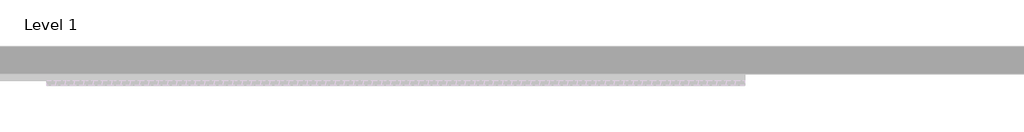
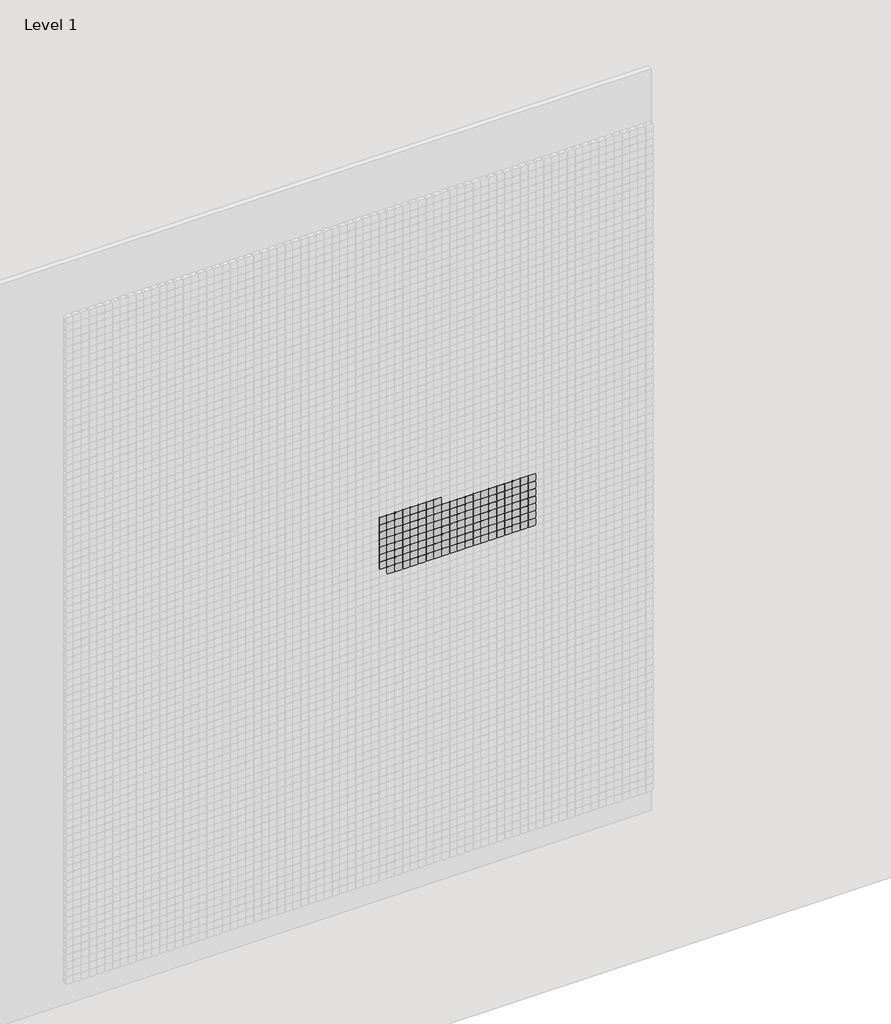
# One storey, part 55 of 71: 147 proxies.
"""IFC4 building model written with IfcOpenShell, lengths in millimetres."""

from ifc_helpers import new_model, si_unit, origin, place, context, project, spatial, transform, mapped, element, save
from components import generic_models_afde289c

model = new_model("IFC4")

# Units and contexts
model_context = context("Model", 3, world=origin())
ifc_project = project(units=[si_unit("LENGTHUNIT", "METRE", prefix="MILLI")], contexts=[model_context])

# Site, building, storey
site = spatial("IfcSite", under=ifc_project)
building = spatial("IfcBuilding", under=site)
storey = spatial("IfcBuildingStorey", under=building, Name="Level 1", Elevation=0.0)

# Proxies
placement = place(None, origin())
generic_models_shape = generic_models_afde289c(model_context)
element("IfcBuildingElementProxy", 1, Name="Pixel_M : Pixel_M", ObjectType="Pixel_M : Pixel_M", at=placement, inside=storey, context=model_context, shape_type="MappedRepresentation", body=[
    mapped(generic_models_shape, transform((8362.4280941, -75.0, 3566.3566215), x_axis=(1.0, 0.0, 0.0), y_axis=(0.0, 0.0, 1.0), z_axis=(0.0, -1.0, 0.0))),
])
element("IfcBuildingElementProxy", 2, Name="Pixel_M : Pixel_M", ObjectType="Pixel_M : Pixel_M", at=placement, inside=storey, context=model_context, shape_type="MappedRepresentation", body=[
    mapped(generic_models_shape, transform((8312.4280941, -75.0, 3566.3566215), x_axis=(1.0, 0.0, 0.0), y_axis=(0.0, 0.0, 1.0), z_axis=(0.0, -1.0, 0.0))),
])
element("IfcBuildingElementProxy", 3, Name="Pixel_M : Pixel_M", ObjectType="Pixel_M : Pixel_M", at=placement, inside=storey, context=model_context, shape_type="MappedRepresentation", body=[
    mapped(generic_models_shape, transform((8262.4280941, -75.0, 3566.3566215), x_axis=(1.0, 0.0, 0.0), y_axis=(0.0, 0.0, 1.0), z_axis=(0.0, -1.0, 0.0))),
])
element("IfcBuildingElementProxy", 4, Name="Pixel_M : Pixel_M", ObjectType="Pixel_M : Pixel_M", at=placement, inside=storey, context=model_context, shape_type="MappedRepresentation", body=[
    mapped(generic_models_shape, transform((8212.4280941, -75.0, 3566.3566215), x_axis=(1.0, 0.0, 0.0), y_axis=(0.0, 0.0, 1.0), z_axis=(0.0, -1.0, 0.0))),
])
element("IfcBuildingElementProxy", 5, Name="Pixel_M : Pixel_M", ObjectType="Pixel_M : Pixel_M", at=placement, inside=storey, context=model_context, shape_type="MappedRepresentation", body=[
    mapped(generic_models_shape, transform((8162.4280941, -75.0, 3566.3566215), x_axis=(1.0, 0.0, 0.0), y_axis=(0.0, 0.0, 1.0), z_axis=(0.0, -1.0, 0.0))),
])
element("IfcBuildingElementProxy", 6, Name="Pixel_M : Pixel_M", ObjectType="Pixel_M : Pixel_M", at=placement, inside=storey, context=model_context, shape_type="MappedRepresentation", body=[
    mapped(generic_models_shape, transform((8112.4280941, -75.0, 3566.3566215), x_axis=(1.0, 0.0, 0.0), y_axis=(0.0, 0.0, 1.0), z_axis=(0.0, -1.0, 0.0))),
])
element("IfcBuildingElementProxy", 7, Name="Pixel_M : Pixel_M", ObjectType="Pixel_M : Pixel_M", at=placement, inside=storey, context=model_context, shape_type="MappedRepresentation", body=[
    mapped(generic_models_shape, transform((8062.4280941, -75.0, 3566.3566215), x_axis=(1.0, 0.0, 0.0), y_axis=(0.0, 0.0, 1.0), z_axis=(0.0, -1.0, 0.0))),
])
element("IfcBuildingElementProxy", 8, Name="Pixel_M : Pixel_M", ObjectType="Pixel_M : Pixel_M", at=placement, inside=storey, context=model_context, shape_type="MappedRepresentation", body=[
    mapped(generic_models_shape, transform((8012.4280941, -75.0, 3566.3566215), x_axis=(1.0, 0.0, 0.0), y_axis=(0.0, 0.0, 1.0), z_axis=(0.0, -1.0, 0.0))),
])
element("IfcBuildingElementProxy", 9, Name="Pixel_M : Pixel_M", ObjectType="Pixel_M : Pixel_M", at=placement, inside=storey, context=model_context, shape_type="MappedRepresentation", body=[
    mapped(generic_models_shape, transform((8962.4280941, -75.0, 3516.3566215), x_axis=(1.0, 0.0, 0.0), y_axis=(0.0, 0.0, 1.0), z_axis=(0.0, -1.0, 0.0))),
])
element("IfcBuildingElementProxy", 10, Name="Pixel_M : Pixel_M", ObjectType="Pixel_M : Pixel_M", at=placement, inside=storey, context=model_context, shape_type="MappedRepresentation", body=[
    mapped(generic_models_shape, transform((8912.4280941, -75.0, 3516.3566215), x_axis=(1.0, 0.0, 0.0), y_axis=(0.0, 0.0, 1.0), z_axis=(0.0, -1.0, 0.0))),
])
element("IfcBuildingElementProxy", 11, Name="Pixel_M : Pixel_M", ObjectType="Pixel_M : Pixel_M", at=placement, inside=storey, context=model_context, shape_type="MappedRepresentation", body=[
    mapped(generic_models_shape, transform((8862.4280941, -75.0, 3516.3566215), x_axis=(1.0, 0.0, 0.0), y_axis=(0.0, 0.0, 1.0), z_axis=(0.0, -1.0, 0.0))),
])
element("IfcBuildingElementProxy", 12, Name="Pixel_M : Pixel_M", ObjectType="Pixel_M : Pixel_M", at=placement, inside=storey, context=model_context, shape_type="MappedRepresentation", body=[
    mapped(generic_models_shape, transform((8812.4280941, -75.0, 3516.3566215), x_axis=(1.0, 0.0, 0.0), y_axis=(0.0, 0.0, 1.0), z_axis=(0.0, -1.0, 0.0))),
])
element("IfcBuildingElementProxy", 13, Name="Pixel_M : Pixel_M", ObjectType="Pixel_M : Pixel_M", at=placement, inside=storey, context=model_context, shape_type="MappedRepresentation", body=[
    mapped(generic_models_shape, transform((8762.4280941, -75.0, 3516.3566215), x_axis=(1.0, 0.0, 0.0), y_axis=(0.0, 0.0, 1.0), z_axis=(0.0, -1.0, 0.0))),
])
element("IfcBuildingElementProxy", 14, Name="Pixel_M : Pixel_M", ObjectType="Pixel_M : Pixel_M", at=placement, inside=storey, context=model_context, shape_type="MappedRepresentation", body=[
    mapped(generic_models_shape, transform((8712.4280941, -75.0, 3516.3566215), x_axis=(1.0, 0.0, 0.0), y_axis=(0.0, 0.0, 1.0), z_axis=(0.0, -1.0, 0.0))),
])
element("IfcBuildingElementProxy", 15, Name="Pixel_M : Pixel_M", ObjectType="Pixel_M : Pixel_M", at=placement, inside=storey, context=model_context, shape_type="MappedRepresentation", body=[
    mapped(generic_models_shape, transform((8662.4280941, -75.0, 3516.3566215), x_axis=(1.0, 0.0, 0.0), y_axis=(0.0, 0.0, 1.0), z_axis=(0.0, -1.0, 0.0))),
])
element("IfcBuildingElementProxy", 16, Name="Pixel_M : Pixel_M", ObjectType="Pixel_M : Pixel_M", at=placement, inside=storey, context=model_context, shape_type="MappedRepresentation", body=[
    mapped(generic_models_shape, transform((8612.4280941, -75.0, 3516.3566215), x_axis=(1.0, 0.0, 0.0), y_axis=(0.0, 0.0, 1.0), z_axis=(0.0, -1.0, 0.0))),
])
element("IfcBuildingElementProxy", 17, Name="Pixel_M : Pixel_M", ObjectType="Pixel_M : Pixel_M", at=placement, inside=storey, context=model_context, shape_type="MappedRepresentation", body=[
    mapped(generic_models_shape, transform((8562.4280941, -75.0, 3516.3566215), x_axis=(1.0, 0.0, 0.0), y_axis=(0.0, 0.0, 1.0), z_axis=(0.0, -1.0, 0.0))),
])
element("IfcBuildingElementProxy", 18, Name="Pixel_M : Pixel_M", ObjectType="Pixel_M : Pixel_M", at=placement, inside=storey, context=model_context, shape_type="MappedRepresentation", body=[
    mapped(generic_models_shape, transform((8512.4280941, -75.0, 3516.3566215), x_axis=(1.0, 0.0, 0.0), y_axis=(0.0, 0.0, 1.0), z_axis=(0.0, -1.0, 0.0))),
])
element("IfcBuildingElementProxy", 19, Name="Pixel_M : Pixel_M", ObjectType="Pixel_M : Pixel_M", at=placement, inside=storey, context=model_context, shape_type="MappedRepresentation", body=[
    mapped(generic_models_shape, transform((8462.4280941, -75.0, 3516.3566215), x_axis=(1.0, 0.0, 0.0), y_axis=(0.0, 0.0, 1.0), z_axis=(0.0, -1.0, 0.0))),
])
element("IfcBuildingElementProxy", 20, Name="Pixel_M : Pixel_M", ObjectType="Pixel_M : Pixel_M", at=placement, inside=storey, context=model_context, shape_type="MappedRepresentation", body=[
    mapped(generic_models_shape, transform((8412.4280941, -75.0, 3516.3566215), x_axis=(1.0, 0.0, 0.0), y_axis=(0.0, 0.0, 1.0), z_axis=(0.0, -1.0, 0.0))),
])
element("IfcBuildingElementProxy", 21, Name="Pixel_M : Pixel_M", ObjectType="Pixel_M : Pixel_M", at=placement, inside=storey, context=model_context, shape_type="MappedRepresentation", body=[
    mapped(generic_models_shape, transform((8362.4280941, -75.0, 3516.3566215), x_axis=(1.0, 0.0, 0.0), y_axis=(0.0, 0.0, 1.0), z_axis=(0.0, -1.0, 0.0))),
])
element("IfcBuildingElementProxy", 22, Name="Pixel_M : Pixel_M", ObjectType="Pixel_M : Pixel_M", at=placement, inside=storey, context=model_context, shape_type="MappedRepresentation", body=[
    mapped(generic_models_shape, transform((8312.4280941, -75.0, 3516.3566215), x_axis=(1.0, 0.0, 0.0), y_axis=(0.0, 0.0, 1.0), z_axis=(0.0, -1.0, 0.0))),
])
element("IfcBuildingElementProxy", 23, Name="Pixel_M : Pixel_M", ObjectType="Pixel_M : Pixel_M", at=placement, inside=storey, context=model_context, shape_type="MappedRepresentation", body=[
    mapped(generic_models_shape, transform((8262.4280941, -75.0, 3516.3566215), x_axis=(1.0, 0.0, 0.0), y_axis=(0.0, 0.0, 1.0), z_axis=(0.0, -1.0, 0.0))),
])
element("IfcBuildingElementProxy", 24, Name="Pixel_M : Pixel_M", ObjectType="Pixel_M : Pixel_M", at=placement, inside=storey, context=model_context, shape_type="MappedRepresentation", body=[
    mapped(generic_models_shape, transform((8212.4280941, -75.0, 3516.3566215), x_axis=(1.0, 0.0, 0.0), y_axis=(0.0, 0.0, 1.0), z_axis=(0.0, -1.0, 0.0))),
])
element("IfcBuildingElementProxy", 25, Name="Pixel_M : Pixel_M", ObjectType="Pixel_M : Pixel_M", at=placement, inside=storey, context=model_context, shape_type="MappedRepresentation", body=[
    mapped(generic_models_shape, transform((8162.4280941, -75.0, 3516.3566215), x_axis=(1.0, 0.0, 0.0), y_axis=(0.0, 0.0, 1.0), z_axis=(0.0, -1.0, 0.0))),
])
element("IfcBuildingElementProxy", 26, Name="Pixel_M : Pixel_M", ObjectType="Pixel_M : Pixel_M", at=placement, inside=storey, context=model_context, shape_type="MappedRepresentation", body=[
    mapped(generic_models_shape, transform((8112.4280941, -75.0, 3516.3566215), x_axis=(1.0, 0.0, 0.0), y_axis=(0.0, 0.0, 1.0), z_axis=(0.0, -1.0, 0.0))),
])
element("IfcBuildingElementProxy", 27, Name="Pixel_M : Pixel_M", ObjectType="Pixel_M : Pixel_M", at=placement, inside=storey, context=model_context, shape_type="MappedRepresentation", body=[
    mapped(generic_models_shape, transform((8062.4280941, -75.0, 3516.3566215), x_axis=(1.0, 0.0, 0.0), y_axis=(0.0, 0.0, 1.0), z_axis=(0.0, -1.0, 0.0))),
])
element("IfcBuildingElementProxy", 28, Name="Pixel_M : Pixel_M", ObjectType="Pixel_M : Pixel_M", at=placement, inside=storey, context=model_context, shape_type="MappedRepresentation", body=[
    mapped(generic_models_shape, transform((8012.4280941, -75.0, 3516.3566215), x_axis=(1.0, 0.0, 0.0), y_axis=(0.0, 0.0, 1.0), z_axis=(0.0, -1.0, 0.0))),
])
element("IfcBuildingElementProxy", 29, Name="Pixel_M : Pixel_M", ObjectType="Pixel_M : Pixel_M", at=placement, inside=storey, context=model_context, shape_type="MappedRepresentation", body=[
    mapped(generic_models_shape, transform((8962.4280941, -75.0, 3466.3566215), x_axis=(1.0, 0.0, 0.0), y_axis=(0.0, 0.0, 1.0), z_axis=(0.0, -1.0, 0.0))),
])
element("IfcBuildingElementProxy", 30, Name="Pixel_M : Pixel_M", ObjectType="Pixel_M : Pixel_M", at=placement, inside=storey, context=model_context, shape_type="MappedRepresentation", body=[
    mapped(generic_models_shape, transform((8912.4280941, -75.0, 3466.3566215), x_axis=(1.0, 0.0, 0.0), y_axis=(0.0, 0.0, 1.0), z_axis=(0.0, -1.0, 0.0))),
])
element("IfcBuildingElementProxy", 31, Name="Pixel_M : Pixel_M", ObjectType="Pixel_M : Pixel_M", at=placement, inside=storey, context=model_context, shape_type="MappedRepresentation", body=[
    mapped(generic_models_shape, transform((8862.4280941, -75.0, 3466.3566215), x_axis=(1.0, 0.0, 0.0), y_axis=(0.0, 0.0, 1.0), z_axis=(0.0, -1.0, 0.0))),
])
element("IfcBuildingElementProxy", 32, Name="Pixel_M : Pixel_M", ObjectType="Pixel_M : Pixel_M", at=placement, inside=storey, context=model_context, shape_type="MappedRepresentation", body=[
    mapped(generic_models_shape, transform((8812.4280941, -75.0, 3466.3566215), x_axis=(1.0, 0.0, 0.0), y_axis=(0.0, 0.0, 1.0), z_axis=(0.0, -1.0, 0.0))),
])
element("IfcBuildingElementProxy", 33, Name="Pixel_M : Pixel_M", ObjectType="Pixel_M : Pixel_M", at=placement, inside=storey, context=model_context, shape_type="MappedRepresentation", body=[
    mapped(generic_models_shape, transform((8762.4280941, -75.0, 3466.3566215), x_axis=(1.0, 0.0, 0.0), y_axis=(0.0, 0.0, 1.0), z_axis=(0.0, -1.0, 0.0))),
])
element("IfcBuildingElementProxy", 34, Name="Pixel_M : Pixel_M", ObjectType="Pixel_M : Pixel_M", at=placement, inside=storey, context=model_context, shape_type="MappedRepresentation", body=[
    mapped(generic_models_shape, transform((8712.4280941, -75.0, 3466.3566215), x_axis=(1.0, 0.0, 0.0), y_axis=(0.0, 0.0, 1.0), z_axis=(0.0, -1.0, 0.0))),
])
element("IfcBuildingElementProxy", 35, Name="Pixel_M : Pixel_M", ObjectType="Pixel_M : Pixel_M", at=placement, inside=storey, context=model_context, shape_type="MappedRepresentation", body=[
    mapped(generic_models_shape, transform((8662.4280941, -75.0, 3466.3566215), x_axis=(1.0, 0.0, 0.0), y_axis=(0.0, 0.0, 1.0), z_axis=(0.0, -1.0, 0.0))),
])
element("IfcBuildingElementProxy", 36, Name="Pixel_M : Pixel_M", ObjectType="Pixel_M : Pixel_M", at=placement, inside=storey, context=model_context, shape_type="MappedRepresentation", body=[
    mapped(generic_models_shape, transform((8612.4280941, -75.0, 3466.3566215), x_axis=(1.0, 0.0, 0.0), y_axis=(0.0, 0.0, 1.0), z_axis=(0.0, -1.0, 0.0))),
])
element("IfcBuildingElementProxy", 37, Name="Pixel_M : Pixel_M", ObjectType="Pixel_M : Pixel_M", at=placement, inside=storey, context=model_context, shape_type="MappedRepresentation", body=[
    mapped(generic_models_shape, transform((8562.4280941, -75.0, 3466.3566215), x_axis=(1.0, 0.0, 0.0), y_axis=(0.0, 0.0, 1.0), z_axis=(0.0, -1.0, 0.0))),
])
element("IfcBuildingElementProxy", 38, Name="Pixel_M : Pixel_M", ObjectType="Pixel_M : Pixel_M", at=placement, inside=storey, context=model_context, shape_type="MappedRepresentation", body=[
    mapped(generic_models_shape, transform((8512.4280941, -75.0, 3466.3566215), x_axis=(1.0, 0.0, 0.0), y_axis=(0.0, 0.0, 1.0), z_axis=(0.0, -1.0, 0.0))),
])
element("IfcBuildingElementProxy", 39, Name="Pixel_M : Pixel_M", ObjectType="Pixel_M : Pixel_M", at=placement, inside=storey, context=model_context, shape_type="MappedRepresentation", body=[
    mapped(generic_models_shape, transform((8462.4280941, -75.0, 3466.3566215), x_axis=(1.0, 0.0, 0.0), y_axis=(0.0, 0.0, 1.0), z_axis=(0.0, -1.0, 0.0))),
])
element("IfcBuildingElementProxy", 40, Name="Pixel_M : Pixel_M", ObjectType="Pixel_M : Pixel_M", at=placement, inside=storey, context=model_context, shape_type="MappedRepresentation", body=[
    mapped(generic_models_shape, transform((8412.4280941, -75.0, 3466.3566215), x_axis=(1.0, 0.0, 0.0), y_axis=(0.0, 0.0, 1.0), z_axis=(0.0, -1.0, 0.0))),
])
element("IfcBuildingElementProxy", 41, Name="Pixel_M : Pixel_M", ObjectType="Pixel_M : Pixel_M", at=placement, inside=storey, context=model_context, shape_type="MappedRepresentation", body=[
    mapped(generic_models_shape, transform((8362.4280941, -75.0, 3466.3566215), x_axis=(1.0, 0.0, 0.0), y_axis=(0.0, 0.0, 1.0), z_axis=(0.0, -1.0, 0.0))),
])
element("IfcBuildingElementProxy", 42, Name="Pixel_M : Pixel_M", ObjectType="Pixel_M : Pixel_M", at=placement, inside=storey, context=model_context, shape_type="MappedRepresentation", body=[
    mapped(generic_models_shape, transform((8312.4280941, -75.0, 3466.3566215), x_axis=(1.0, 0.0, 0.0), y_axis=(0.0, 0.0, 1.0), z_axis=(0.0, -1.0, 0.0))),
])
element("IfcBuildingElementProxy", 43, Name="Pixel_M : Pixel_M", ObjectType="Pixel_M : Pixel_M", at=placement, inside=storey, context=model_context, shape_type="MappedRepresentation", body=[
    mapped(generic_models_shape, transform((8262.4280941, -75.0, 3466.3566215), x_axis=(1.0, 0.0, 0.0), y_axis=(0.0, 0.0, 1.0), z_axis=(0.0, -1.0, 0.0))),
])
element("IfcBuildingElementProxy", 44, Name="Pixel_M : Pixel_M", ObjectType="Pixel_M : Pixel_M", at=placement, inside=storey, context=model_context, shape_type="MappedRepresentation", body=[
    mapped(generic_models_shape, transform((8212.4280941, -75.0, 3466.3566215), x_axis=(1.0, 0.0, 0.0), y_axis=(0.0, 0.0, 1.0), z_axis=(0.0, -1.0, 0.0))),
])
element("IfcBuildingElementProxy", 45, Name="Pixel_M : Pixel_M", ObjectType="Pixel_M : Pixel_M", at=placement, inside=storey, context=model_context, shape_type="MappedRepresentation", body=[
    mapped(generic_models_shape, transform((8162.4280941, -75.0, 3466.3566215), x_axis=(1.0, 0.0, 0.0), y_axis=(0.0, 0.0, 1.0), z_axis=(0.0, -1.0, 0.0))),
])
element("IfcBuildingElementProxy", 46, Name="Pixel_M : Pixel_M", ObjectType="Pixel_M : Pixel_M", at=placement, inside=storey, context=model_context, shape_type="MappedRepresentation", body=[
    mapped(generic_models_shape, transform((8112.4280941, -75.0, 3466.3566215), x_axis=(1.0, 0.0, 0.0), y_axis=(0.0, 0.0, 1.0), z_axis=(0.0, -1.0, 0.0))),
])
element("IfcBuildingElementProxy", 47, Name="Pixel_M : Pixel_M", ObjectType="Pixel_M : Pixel_M", at=placement, inside=storey, context=model_context, shape_type="MappedRepresentation", body=[
    mapped(generic_models_shape, transform((8062.4280941, -75.0, 3466.3566215), x_axis=(1.0, 0.0, 0.0), y_axis=(0.0, 0.0, 1.0), z_axis=(0.0, -1.0, 0.0))),
])
element("IfcBuildingElementProxy", 48, Name="Pixel_M : Pixel_M", ObjectType="Pixel_M : Pixel_M", at=placement, inside=storey, context=model_context, shape_type="MappedRepresentation", body=[
    mapped(generic_models_shape, transform((8012.4280941, -75.0, 3466.3566215), x_axis=(1.0, 0.0, 0.0), y_axis=(0.0, 0.0, 1.0), z_axis=(0.0, -1.0, 0.0))),
])
element("IfcBuildingElementProxy", 49, Name="Pixel_M : Pixel_M", ObjectType="Pixel_M : Pixel_M", at=placement, inside=storey, context=model_context, shape_type="MappedRepresentation", body=[
    mapped(generic_models_shape, transform((8962.4280941, -75.0, 3416.3566215), x_axis=(1.0, 0.0, 0.0), y_axis=(0.0, 0.0, 1.0), z_axis=(0.0, -1.0, 0.0))),
])
element("IfcBuildingElementProxy", 50, Name="Pixel_M : Pixel_M", ObjectType="Pixel_M : Pixel_M", at=placement, inside=storey, context=model_context, shape_type="MappedRepresentation", body=[
    mapped(generic_models_shape, transform((8912.4280941, -75.0, 3416.3566215), x_axis=(1.0, 0.0, 0.0), y_axis=(0.0, 0.0, 1.0), z_axis=(0.0, -1.0, 0.0))),
])
element("IfcBuildingElementProxy", 51, Name="Pixel_M : Pixel_M", ObjectType="Pixel_M : Pixel_M", at=placement, inside=storey, context=model_context, shape_type="MappedRepresentation", body=[
    mapped(generic_models_shape, transform((8862.4280941, -75.0, 3416.3566215), x_axis=(1.0, 0.0, 0.0), y_axis=(0.0, 0.0, 1.0), z_axis=(0.0, -1.0, 0.0))),
])
element("IfcBuildingElementProxy", 52, Name="Pixel_M : Pixel_M", ObjectType="Pixel_M : Pixel_M", at=placement, inside=storey, context=model_context, shape_type="MappedRepresentation", body=[
    mapped(generic_models_shape, transform((8812.4280941, -75.0, 3416.3566215), x_axis=(1.0, 0.0, 0.0), y_axis=(0.0, 0.0, 1.0), z_axis=(0.0, -1.0, 0.0))),
])
element("IfcBuildingElementProxy", 53, Name="Pixel_M : Pixel_M", ObjectType="Pixel_M : Pixel_M", at=placement, inside=storey, context=model_context, shape_type="MappedRepresentation", body=[
    mapped(generic_models_shape, transform((8762.4280941, -75.0, 3416.3566215), x_axis=(1.0, 0.0, 0.0), y_axis=(0.0, 0.0, 1.0), z_axis=(0.0, -1.0, 0.0))),
])
element("IfcBuildingElementProxy", 54, Name="Pixel_M : Pixel_M", ObjectType="Pixel_M : Pixel_M", at=placement, inside=storey, context=model_context, shape_type="MappedRepresentation", body=[
    mapped(generic_models_shape, transform((8712.4280941, -75.0, 3416.3566215), x_axis=(1.0, 0.0, 0.0), y_axis=(0.0, 0.0, 1.0), z_axis=(0.0, -1.0, 0.0))),
])
element("IfcBuildingElementProxy", 55, Name="Pixel_M : Pixel_M", ObjectType="Pixel_M : Pixel_M", at=placement, inside=storey, context=model_context, shape_type="MappedRepresentation", body=[
    mapped(generic_models_shape, transform((8662.4280941, -75.0, 3416.3566215), x_axis=(1.0, 0.0, 0.0), y_axis=(0.0, 0.0, 1.0), z_axis=(0.0, -1.0, 0.0))),
])
element("IfcBuildingElementProxy", 56, Name="Pixel_M : Pixel_M", ObjectType="Pixel_M : Pixel_M", at=placement, inside=storey, context=model_context, shape_type="MappedRepresentation", body=[
    mapped(generic_models_shape, transform((8612.4280941, -75.0, 3416.3566215), x_axis=(1.0, 0.0, 0.0), y_axis=(0.0, 0.0, 1.0), z_axis=(0.0, -1.0, 0.0))),
])
element("IfcBuildingElementProxy", 57, Name="Pixel_M : Pixel_M", ObjectType="Pixel_M : Pixel_M", at=placement, inside=storey, context=model_context, shape_type="MappedRepresentation", body=[
    mapped(generic_models_shape, transform((8562.4280941, -75.0, 3416.3566215), x_axis=(1.0, 0.0, 0.0), y_axis=(0.0, 0.0, 1.0), z_axis=(0.0, -1.0, 0.0))),
])
element("IfcBuildingElementProxy", 58, Name="Pixel_M : Pixel_M", ObjectType="Pixel_M : Pixel_M", at=placement, inside=storey, context=model_context, shape_type="MappedRepresentation", body=[
    mapped(generic_models_shape, transform((8512.4280941, -75.0, 3416.3566215), x_axis=(1.0, 0.0, 0.0), y_axis=(0.0, 0.0, 1.0), z_axis=(0.0, -1.0, 0.0))),
])
element("IfcBuildingElementProxy", 59, Name="Pixel_M : Pixel_M", ObjectType="Pixel_M : Pixel_M", at=placement, inside=storey, context=model_context, shape_type="MappedRepresentation", body=[
    mapped(generic_models_shape, transform((8462.4280941, -75.0, 3416.3566215), x_axis=(1.0, 0.0, 0.0), y_axis=(0.0, 0.0, 1.0), z_axis=(0.0, -1.0, 0.0))),
])
element("IfcBuildingElementProxy", 60, Name="Pixel_M : Pixel_M", ObjectType="Pixel_M : Pixel_M", at=placement, inside=storey, context=model_context, shape_type="MappedRepresentation", body=[
    mapped(generic_models_shape, transform((8412.4280941, -75.0, 3416.3566215), x_axis=(1.0, 0.0, 0.0), y_axis=(0.0, 0.0, 1.0), z_axis=(0.0, -1.0, 0.0))),
])
element("IfcBuildingElementProxy", 61, Name="Pixel_M : Pixel_M", ObjectType="Pixel_M : Pixel_M", at=placement, inside=storey, context=model_context, shape_type="MappedRepresentation", body=[
    mapped(generic_models_shape, transform((8362.4280941, -75.0, 3416.3566215), x_axis=(1.0, 0.0, 0.0), y_axis=(0.0, 0.0, 1.0), z_axis=(0.0, -1.0, 0.0))),
])
element("IfcBuildingElementProxy", 62, Name="Pixel_M : Pixel_M", ObjectType="Pixel_M : Pixel_M", at=placement, inside=storey, context=model_context, shape_type="MappedRepresentation", body=[
    mapped(generic_models_shape, transform((8312.4280941, -75.0, 3416.3566215), x_axis=(1.0, 0.0, 0.0), y_axis=(0.0, 0.0, 1.0), z_axis=(0.0, -1.0, 0.0))),
])
element("IfcBuildingElementProxy", 63, Name="Pixel_M : Pixel_M", ObjectType="Pixel_M : Pixel_M", at=placement, inside=storey, context=model_context, shape_type="MappedRepresentation", body=[
    mapped(generic_models_shape, transform((8262.4280941, -75.0, 3416.3566215), x_axis=(1.0, 0.0, 0.0), y_axis=(0.0, 0.0, 1.0), z_axis=(0.0, -1.0, 0.0))),
])
element("IfcBuildingElementProxy", 64, Name="Pixel_M : Pixel_M", ObjectType="Pixel_M : Pixel_M", at=placement, inside=storey, context=model_context, shape_type="MappedRepresentation", body=[
    mapped(generic_models_shape, transform((8212.4280941, -75.0, 3416.3566215), x_axis=(1.0, 0.0, 0.0), y_axis=(0.0, 0.0, 1.0), z_axis=(0.0, -1.0, 0.0))),
])
element("IfcBuildingElementProxy", 65, Name="Pixel_M : Pixel_M", ObjectType="Pixel_M : Pixel_M", at=placement, inside=storey, context=model_context, shape_type="MappedRepresentation", body=[
    mapped(generic_models_shape, transform((8162.4280941, -75.0, 3416.3566215), x_axis=(1.0, 0.0, 0.0), y_axis=(0.0, 0.0, 1.0), z_axis=(0.0, -1.0, 0.0))),
])
element("IfcBuildingElementProxy", 66, Name="Pixel_M : Pixel_M", ObjectType="Pixel_M : Pixel_M", at=placement, inside=storey, context=model_context, shape_type="MappedRepresentation", body=[
    mapped(generic_models_shape, transform((8112.4280941, -75.0, 3416.3566215), x_axis=(1.0, 0.0, 0.0), y_axis=(0.0, 0.0, 1.0), z_axis=(0.0, -1.0, 0.0))),
])
element("IfcBuildingElementProxy", 67, Name="Pixel_M : Pixel_M", ObjectType="Pixel_M : Pixel_M", at=placement, inside=storey, context=model_context, shape_type="MappedRepresentation", body=[
    mapped(generic_models_shape, transform((8062.4280941, -75.0, 3416.3566215), x_axis=(1.0, 0.0, 0.0), y_axis=(0.0, 0.0, 1.0), z_axis=(0.0, -1.0, 0.0))),
])
element("IfcBuildingElementProxy", 68, Name="Pixel_M : Pixel_M", ObjectType="Pixel_M : Pixel_M", at=placement, inside=storey, context=model_context, shape_type="MappedRepresentation", body=[
    mapped(generic_models_shape, transform((8012.4280941, -75.0, 3416.3566215), x_axis=(1.0, 0.0, 0.0), y_axis=(0.0, 0.0, 1.0), z_axis=(0.0, -1.0, 0.0))),
])
element("IfcBuildingElementProxy", 69, Name="Pixel_M : Pixel_M", ObjectType="Pixel_M : Pixel_M", at=placement, inside=storey, context=model_context, shape_type="MappedRepresentation", body=[
    mapped(generic_models_shape, transform((8962.4280941, -75.0, 3366.3566215), x_axis=(1.0, 0.0, 0.0), y_axis=(0.0, 0.0, 1.0), z_axis=(0.0, -1.0, 0.0))),
])
element("IfcBuildingElementProxy", 70, Name="Pixel_M : Pixel_M", ObjectType="Pixel_M : Pixel_M", at=placement, inside=storey, context=model_context, shape_type="MappedRepresentation", body=[
    mapped(generic_models_shape, transform((8912.4280941, -75.0, 3366.3566215), x_axis=(1.0, 0.0, 0.0), y_axis=(0.0, 0.0, 1.0), z_axis=(0.0, -1.0, 0.0))),
])
element("IfcBuildingElementProxy", 71, Name="Pixel_M : Pixel_M", ObjectType="Pixel_M : Pixel_M", at=placement, inside=storey, context=model_context, shape_type="MappedRepresentation", body=[
    mapped(generic_models_shape, transform((8862.4280941, -75.0, 3366.3566215), x_axis=(1.0, 0.0, 0.0), y_axis=(0.0, 0.0, 1.0), z_axis=(0.0, -1.0, 0.0))),
])
element("IfcBuildingElementProxy", 72, Name="Pixel_M : Pixel_M", ObjectType="Pixel_M : Pixel_M", at=placement, inside=storey, context=model_context, shape_type="MappedRepresentation", body=[
    mapped(generic_models_shape, transform((8812.4280941, -75.0, 3366.3566215), x_axis=(1.0, 0.0, 0.0), y_axis=(0.0, 0.0, 1.0), z_axis=(0.0, -1.0, 0.0))),
])
element("IfcBuildingElementProxy", 73, Name="Pixel_M : Pixel_M", ObjectType="Pixel_M : Pixel_M", at=placement, inside=storey, context=model_context, shape_type="MappedRepresentation", body=[
    mapped(generic_models_shape, transform((8762.4280941, -75.0, 3366.3566215), x_axis=(1.0, 0.0, 0.0), y_axis=(0.0, 0.0, 1.0), z_axis=(0.0, -1.0, 0.0))),
])
element("IfcBuildingElementProxy", 74, Name="Pixel_M : Pixel_M", ObjectType="Pixel_M : Pixel_M", at=placement, inside=storey, context=model_context, shape_type="MappedRepresentation", body=[
    mapped(generic_models_shape, transform((8712.4280941, -75.0, 3366.3566215), x_axis=(1.0, 0.0, 0.0), y_axis=(0.0, 0.0, 1.0), z_axis=(0.0, -1.0, 0.0))),
])
element("IfcBuildingElementProxy", 75, Name="Pixel_M : Pixel_M", ObjectType="Pixel_M : Pixel_M", at=placement, inside=storey, context=model_context, shape_type="MappedRepresentation", body=[
    mapped(generic_models_shape, transform((8662.4280941, -75.0, 3366.3566215), x_axis=(1.0, 0.0, 0.0), y_axis=(0.0, 0.0, 1.0), z_axis=(0.0, -1.0, 0.0))),
])
element("IfcBuildingElementProxy", 76, Name="Pixel_M : Pixel_M", ObjectType="Pixel_M : Pixel_M", at=placement, inside=storey, context=model_context, shape_type="MappedRepresentation", body=[
    mapped(generic_models_shape, transform((8612.4280941, -75.0, 3366.3566215), x_axis=(1.0, 0.0, 0.0), y_axis=(0.0, 0.0, 1.0), z_axis=(0.0, -1.0, 0.0))),
])
element("IfcBuildingElementProxy", 77, Name="Pixel_M : Pixel_M", ObjectType="Pixel_M : Pixel_M", at=placement, inside=storey, context=model_context, shape_type="MappedRepresentation", body=[
    mapped(generic_models_shape, transform((8562.4280941, -75.0, 3366.3566215), x_axis=(1.0, 0.0, 0.0), y_axis=(0.0, 0.0, 1.0), z_axis=(0.0, -1.0, 0.0))),
])
element("IfcBuildingElementProxy", 78, Name="Pixel_M : Pixel_M", ObjectType="Pixel_M : Pixel_M", at=placement, inside=storey, context=model_context, shape_type="MappedRepresentation", body=[
    mapped(generic_models_shape, transform((8512.4280941, -75.0, 3366.3566215), x_axis=(1.0, 0.0, 0.0), y_axis=(0.0, 0.0, 1.0), z_axis=(0.0, -1.0, 0.0))),
])
element("IfcBuildingElementProxy", 79, Name="Pixel_M : Pixel_M", ObjectType="Pixel_M : Pixel_M", at=placement, inside=storey, context=model_context, shape_type="MappedRepresentation", body=[
    mapped(generic_models_shape, transform((8462.4280941, -75.0, 3366.3566215), x_axis=(1.0, 0.0, 0.0), y_axis=(0.0, 0.0, 1.0), z_axis=(0.0, -1.0, 0.0))),
])
element("IfcBuildingElementProxy", 80, Name="Pixel_M : Pixel_M", ObjectType="Pixel_M : Pixel_M", at=placement, inside=storey, context=model_context, shape_type="MappedRepresentation", body=[
    mapped(generic_models_shape, transform((8412.4280941, -75.0, 3366.3566215), x_axis=(1.0, 0.0, 0.0), y_axis=(0.0, 0.0, 1.0), z_axis=(0.0, -1.0, 0.0))),
])
element("IfcBuildingElementProxy", 81, Name="Pixel_M : Pixel_M", ObjectType="Pixel_M : Pixel_M", at=placement, inside=storey, context=model_context, shape_type="MappedRepresentation", body=[
    mapped(generic_models_shape, transform((8362.4280941, -75.0, 3366.3566215), x_axis=(1.0, 0.0, 0.0), y_axis=(0.0, 0.0, 1.0), z_axis=(0.0, -1.0, 0.0))),
])
element("IfcBuildingElementProxy", 82, Name="Pixel_M : Pixel_M", ObjectType="Pixel_M : Pixel_M", at=placement, inside=storey, context=model_context, shape_type="MappedRepresentation", body=[
    mapped(generic_models_shape, transform((8312.4280941, -75.0, 3366.3566215), x_axis=(1.0, 0.0, 0.0), y_axis=(0.0, 0.0, 1.0), z_axis=(0.0, -1.0, 0.0))),
])
element("IfcBuildingElementProxy", 83, Name="Pixel_M : Pixel_M", ObjectType="Pixel_M : Pixel_M", at=placement, inside=storey, context=model_context, shape_type="MappedRepresentation", body=[
    mapped(generic_models_shape, transform((8262.4280941, -75.0, 3366.3566215), x_axis=(1.0, 0.0, 0.0), y_axis=(0.0, 0.0, 1.0), z_axis=(0.0, -1.0, 0.0))),
])
element("IfcBuildingElementProxy", 84, Name="Pixel_M : Pixel_M", ObjectType="Pixel_M : Pixel_M", at=placement, inside=storey, context=model_context, shape_type="MappedRepresentation", body=[
    mapped(generic_models_shape, transform((8212.4280941, -75.0, 3366.3566215), x_axis=(1.0, 0.0, 0.0), y_axis=(0.0, 0.0, 1.0), z_axis=(0.0, -1.0, 0.0))),
])
element("IfcBuildingElementProxy", 85, Name="Pixel_M : Pixel_M", ObjectType="Pixel_M : Pixel_M", at=placement, inside=storey, context=model_context, shape_type="MappedRepresentation", body=[
    mapped(generic_models_shape, transform((8162.4280941, -75.0, 3366.3566215), x_axis=(1.0, 0.0, 0.0), y_axis=(0.0, 0.0, 1.0), z_axis=(0.0, -1.0, 0.0))),
])
element("IfcBuildingElementProxy", 86, Name="Pixel_M : Pixel_M", ObjectType="Pixel_M : Pixel_M", at=placement, inside=storey, context=model_context, shape_type="MappedRepresentation", body=[
    mapped(generic_models_shape, transform((8112.4280941, -75.0, 3366.3566215), x_axis=(1.0, 0.0, 0.0), y_axis=(0.0, 0.0, 1.0), z_axis=(0.0, -1.0, 0.0))),
])
element("IfcBuildingElementProxy", 87, Name="Pixel_M : Pixel_M", ObjectType="Pixel_M : Pixel_M", at=placement, inside=storey, context=model_context, shape_type="MappedRepresentation", body=[
    mapped(generic_models_shape, transform((8062.4280941, -75.0, 3366.3566215), x_axis=(1.0, 0.0, 0.0), y_axis=(0.0, 0.0, 1.0), z_axis=(0.0, -1.0, 0.0))),
])
element("IfcBuildingElementProxy", 88, Name="Pixel_M : Pixel_M", ObjectType="Pixel_M : Pixel_M", at=placement, inside=storey, context=model_context, shape_type="MappedRepresentation", body=[
    mapped(generic_models_shape, transform((8012.4280941, -75.0, 3366.3566215), x_axis=(1.0, 0.0, 0.0), y_axis=(0.0, 0.0, 1.0), z_axis=(0.0, -1.0, 0.0))),
])
element("IfcBuildingElementProxy", 89, Name="Pixel_M : Pixel_M", ObjectType="Pixel_M : Pixel_M", at=placement, inside=storey, context=model_context, shape_type="MappedRepresentation", body=[
    mapped(generic_models_shape, transform((8962.4280941, -75.0, 3316.3566215), x_axis=(1.0, 0.0, 0.0), y_axis=(0.0, 0.0, 1.0), z_axis=(0.0, -1.0, 0.0))),
])
element("IfcBuildingElementProxy", 90, Name="Pixel_M : Pixel_M", ObjectType="Pixel_M : Pixel_M", at=placement, inside=storey, context=model_context, shape_type="MappedRepresentation", body=[
    mapped(generic_models_shape, transform((8912.4280941, -75.0, 3316.3566215), x_axis=(1.0, 0.0, 0.0), y_axis=(0.0, 0.0, 1.0), z_axis=(0.0, -1.0, 0.0))),
])
element("IfcBuildingElementProxy", 91, Name="Pixel_M : Pixel_M", ObjectType="Pixel_M : Pixel_M", at=placement, inside=storey, context=model_context, shape_type="MappedRepresentation", body=[
    mapped(generic_models_shape, transform((8862.4280941, -75.0, 3316.3566215), x_axis=(1.0, 0.0, 0.0), y_axis=(0.0, 0.0, 1.0), z_axis=(0.0, -1.0, 0.0))),
])
element("IfcBuildingElementProxy", 92, Name="Pixel_M : Pixel_M", ObjectType="Pixel_M : Pixel_M", at=placement, inside=storey, context=model_context, shape_type="MappedRepresentation", body=[
    mapped(generic_models_shape, transform((8812.4280941, -75.0, 3316.3566215), x_axis=(1.0, 0.0, 0.0), y_axis=(0.0, 0.0, 1.0), z_axis=(0.0, -1.0, 0.0))),
])
element("IfcBuildingElementProxy", 93, Name="Pixel_M : Pixel_M", ObjectType="Pixel_M : Pixel_M", at=placement, inside=storey, context=model_context, shape_type="MappedRepresentation", body=[
    mapped(generic_models_shape, transform((8762.4280941, -75.0, 3316.3566215), x_axis=(1.0, 0.0, 0.0), y_axis=(0.0, 0.0, 1.0), z_axis=(0.0, -1.0, 0.0))),
])
element("IfcBuildingElementProxy", 94, Name="Pixel_M : Pixel_M", ObjectType="Pixel_M : Pixel_M", at=placement, inside=storey, context=model_context, shape_type="MappedRepresentation", body=[
    mapped(generic_models_shape, transform((8712.4280941, -75.0, 3316.3566215), x_axis=(1.0, 0.0, 0.0), y_axis=(0.0, 0.0, 1.0), z_axis=(0.0, -1.0, 0.0))),
])
element("IfcBuildingElementProxy", 95, Name="Pixel_M : Pixel_M", ObjectType="Pixel_M : Pixel_M", at=placement, inside=storey, context=model_context, shape_type="MappedRepresentation", body=[
    mapped(generic_models_shape, transform((8662.4280941, -75.0, 3316.3566215), x_axis=(1.0, 0.0, 0.0), y_axis=(0.0, 0.0, 1.0), z_axis=(0.0, -1.0, 0.0))),
])
element("IfcBuildingElementProxy", 96, Name="Pixel_M : Pixel_M", ObjectType="Pixel_M : Pixel_M", at=placement, inside=storey, context=model_context, shape_type="MappedRepresentation", body=[
    mapped(generic_models_shape, transform((8612.4280941, -75.0, 3316.3566215), x_axis=(1.0, 0.0, 0.0), y_axis=(0.0, 0.0, 1.0), z_axis=(0.0, -1.0, 0.0))),
])
element("IfcBuildingElementProxy", 97, Name="Pixel_M : Pixel_M", ObjectType="Pixel_M : Pixel_M", at=placement, inside=storey, context=model_context, shape_type="MappedRepresentation", body=[
    mapped(generic_models_shape, transform((8562.4280941, -75.0, 3316.3566215), x_axis=(1.0, 0.0, 0.0), y_axis=(0.0, 0.0, 1.0), z_axis=(0.0, -1.0, 0.0))),
])
element("IfcBuildingElementProxy", 98, Name="Pixel_M : Pixel_M", ObjectType="Pixel_M : Pixel_M", at=placement, inside=storey, context=model_context, shape_type="MappedRepresentation", body=[
    mapped(generic_models_shape, transform((8512.4280941, -75.0, 3316.3566215), x_axis=(1.0, 0.0, 0.0), y_axis=(0.0, 0.0, 1.0), z_axis=(0.0, -1.0, 0.0))),
])
element("IfcBuildingElementProxy", 99, Name="Pixel_M : Pixel_M", ObjectType="Pixel_M : Pixel_M", at=placement, inside=storey, context=model_context, shape_type="MappedRepresentation", body=[
    mapped(generic_models_shape, transform((8462.4280941, -75.0, 3316.3566215), x_axis=(1.0, 0.0, 0.0), y_axis=(0.0, 0.0, 1.0), z_axis=(0.0, -1.0, 0.0))),
])
element("IfcBuildingElementProxy", 100, Name="Pixel_M : Pixel_M", ObjectType="Pixel_M : Pixel_M", at=placement, inside=storey, context=model_context, shape_type="MappedRepresentation", body=[
    mapped(generic_models_shape, transform((8412.4280941, -75.0, 3316.3566215), x_axis=(1.0, 0.0, 0.0), y_axis=(0.0, 0.0, 1.0), z_axis=(0.0, -1.0, 0.0))),
])
element("IfcBuildingElementProxy", 101, Name="Pixel_M : Pixel_M", ObjectType="Pixel_M : Pixel_M", at=placement, inside=storey, context=model_context, shape_type="MappedRepresentation", body=[
    mapped(generic_models_shape, transform((8362.4280941, -75.0, 3316.3566215), x_axis=(1.0, 0.0, 0.0), y_axis=(0.0, 0.0, 1.0), z_axis=(0.0, -1.0, 0.0))),
])
element("IfcBuildingElementProxy", 102, Name="Pixel_M : Pixel_M", ObjectType="Pixel_M : Pixel_M", at=placement, inside=storey, context=model_context, shape_type="MappedRepresentation", body=[
    mapped(generic_models_shape, transform((8312.4280941, -75.0, 3316.3566215), x_axis=(1.0, 0.0, 0.0), y_axis=(0.0, 0.0, 1.0), z_axis=(0.0, -1.0, 0.0))),
])
element("IfcBuildingElementProxy", 103, Name="Pixel_M : Pixel_M", ObjectType="Pixel_M : Pixel_M", at=placement, inside=storey, context=model_context, shape_type="MappedRepresentation", body=[
    mapped(generic_models_shape, transform((8262.4280941, -75.0, 3316.3566215), x_axis=(1.0, 0.0, 0.0), y_axis=(0.0, 0.0, 1.0), z_axis=(0.0, -1.0, 0.0))),
])
element("IfcBuildingElementProxy", 104, Name="Pixel_M : Pixel_M", ObjectType="Pixel_M : Pixel_M", at=placement, inside=storey, context=model_context, shape_type="MappedRepresentation", body=[
    mapped(generic_models_shape, transform((8212.4280941, -75.0, 3316.3566215), x_axis=(1.0, 0.0, 0.0), y_axis=(0.0, 0.0, 1.0), z_axis=(0.0, -1.0, 0.0))),
])
element("IfcBuildingElementProxy", 105, Name="Pixel_M : Pixel_M", ObjectType="Pixel_M : Pixel_M", at=placement, inside=storey, context=model_context, shape_type="MappedRepresentation", body=[
    mapped(generic_models_shape, transform((8162.4280941, -75.0, 3316.3566215), x_axis=(1.0, 0.0, 0.0), y_axis=(0.0, 0.0, 1.0), z_axis=(0.0, -1.0, 0.0))),
])
element("IfcBuildingElementProxy", 106, Name="Pixel_M : Pixel_M", ObjectType="Pixel_M : Pixel_M", at=placement, inside=storey, context=model_context, shape_type="MappedRepresentation", body=[
    mapped(generic_models_shape, transform((8112.4280941, -75.0, 3316.3566215), x_axis=(1.0, 0.0, 0.0), y_axis=(0.0, 0.0, 1.0), z_axis=(0.0, -1.0, 0.0))),
])
element("IfcBuildingElementProxy", 107, Name="Pixel_M : Pixel_M", ObjectType="Pixel_M : Pixel_M", at=placement, inside=storey, context=model_context, shape_type="MappedRepresentation", body=[
    mapped(generic_models_shape, transform((8062.4280941, -75.0, 3316.3566215), x_axis=(1.0, 0.0, 0.0), y_axis=(0.0, 0.0, 1.0), z_axis=(0.0, -1.0, 0.0))),
])
element("IfcBuildingElementProxy", 108, Name="Pixel_M : Pixel_M", ObjectType="Pixel_M : Pixel_M", at=placement, inside=storey, context=model_context, shape_type="MappedRepresentation", body=[
    mapped(generic_models_shape, transform((8012.4280941, -75.0, 3316.3566215), x_axis=(1.0, 0.0, 0.0), y_axis=(0.0, 0.0, 1.0), z_axis=(0.0, -1.0, 0.0))),
])
element("IfcBuildingElementProxy", 109, Name="Pixel_M : Pixel_M", ObjectType="Pixel_M : Pixel_M", at=placement, inside=storey, context=model_context, shape_type="MappedRepresentation", body=[
    mapped(generic_models_shape, transform((8962.4280941, -75.0, 3266.3566215), x_axis=(1.0, 0.0, 0.0), y_axis=(0.0, 0.0, 1.0), z_axis=(0.0, -1.0, 0.0))),
])
element("IfcBuildingElementProxy", 110, Name="Pixel_M : Pixel_M", ObjectType="Pixel_M : Pixel_M", at=placement, inside=storey, context=model_context, shape_type="MappedRepresentation", body=[
    mapped(generic_models_shape, transform((8912.4280941, -75.0, 3266.3566215), x_axis=(1.0, 0.0, 0.0), y_axis=(0.0, 0.0, 1.0), z_axis=(0.0, -1.0, 0.0))),
])
element("IfcBuildingElementProxy", 111, Name="Pixel_M : Pixel_M", ObjectType="Pixel_M : Pixel_M", at=placement, inside=storey, context=model_context, shape_type="MappedRepresentation", body=[
    mapped(generic_models_shape, transform((8862.4280941, -75.0, 3266.3566215), x_axis=(1.0, 0.0, 0.0), y_axis=(0.0, 0.0, 1.0), z_axis=(0.0, -1.0, 0.0))),
])
element("IfcBuildingElementProxy", 112, Name="Pixel_M : Pixel_M", ObjectType="Pixel_M : Pixel_M", at=placement, inside=storey, context=model_context, shape_type="MappedRepresentation", body=[
    mapped(generic_models_shape, transform((8812.4280941, -75.0, 3266.3566215), x_axis=(1.0, 0.0, 0.0), y_axis=(0.0, 0.0, 1.0), z_axis=(0.0, -1.0, 0.0))),
])
element("IfcBuildingElementProxy", 113, Name="Pixel_M : Pixel_M", ObjectType="Pixel_M : Pixel_M", at=placement, inside=storey, context=model_context, shape_type="MappedRepresentation", body=[
    mapped(generic_models_shape, transform((8762.4280941, -75.0, 3266.3566215), x_axis=(1.0, 0.0, 0.0), y_axis=(0.0, 0.0, 1.0), z_axis=(0.0, -1.0, 0.0))),
])
element("IfcBuildingElementProxy", 114, Name="Pixel_M : Pixel_M", ObjectType="Pixel_M : Pixel_M", at=placement, inside=storey, context=model_context, shape_type="MappedRepresentation", body=[
    mapped(generic_models_shape, transform((8712.4280941, -75.0, 3266.3566215), x_axis=(1.0, 0.0, 0.0), y_axis=(0.0, 0.0, 1.0), z_axis=(0.0, -1.0, 0.0))),
])
element("IfcBuildingElementProxy", 115, Name="Pixel_M : Pixel_M", ObjectType="Pixel_M : Pixel_M", at=placement, inside=storey, context=model_context, shape_type="MappedRepresentation", body=[
    mapped(generic_models_shape, transform((8662.4280941, -75.0, 3266.3566215), x_axis=(1.0, 0.0, 0.0), y_axis=(0.0, 0.0, 1.0), z_axis=(0.0, -1.0, 0.0))),
])
element("IfcBuildingElementProxy", 116, Name="Pixel_M : Pixel_M", ObjectType="Pixel_M : Pixel_M", at=placement, inside=storey, context=model_context, shape_type="MappedRepresentation", body=[
    mapped(generic_models_shape, transform((8612.4280941, -75.0, 3266.3566215), x_axis=(1.0, 0.0, 0.0), y_axis=(0.0, 0.0, 1.0), z_axis=(0.0, -1.0, 0.0))),
])
element("IfcBuildingElementProxy", 117, Name="Pixel_M : Pixel_M", ObjectType="Pixel_M : Pixel_M", at=placement, inside=storey, context=model_context, shape_type="MappedRepresentation", body=[
    mapped(generic_models_shape, transform((8562.4280941, -75.0, 3266.3566215), x_axis=(1.0, 0.0, 0.0), y_axis=(0.0, 0.0, 1.0), z_axis=(0.0, -1.0, 0.0))),
])
element("IfcBuildingElementProxy", 118, Name="Pixel_M : Pixel_M", ObjectType="Pixel_M : Pixel_M", at=placement, inside=storey, context=model_context, shape_type="MappedRepresentation", body=[
    mapped(generic_models_shape, transform((8512.4280941, -75.0, 3266.3566215), x_axis=(1.0, 0.0, 0.0), y_axis=(0.0, 0.0, 1.0), z_axis=(0.0, -1.0, 0.0))),
])
element("IfcBuildingElementProxy", 119, Name="Pixel_M : Pixel_M", ObjectType="Pixel_M : Pixel_M", at=placement, inside=storey, context=model_context, shape_type="MappedRepresentation", body=[
    mapped(generic_models_shape, transform((8462.4280941, -75.0, 3266.3566215), x_axis=(1.0, 0.0, 0.0), y_axis=(0.0, 0.0, 1.0), z_axis=(0.0, -1.0, 0.0))),
])
element("IfcBuildingElementProxy", 120, Name="Pixel_M : Pixel_M", ObjectType="Pixel_M : Pixel_M", at=placement, inside=storey, context=model_context, shape_type="MappedRepresentation", body=[
    mapped(generic_models_shape, transform((8412.4280941, -75.0, 3266.3566215), x_axis=(1.0, 0.0, 0.0), y_axis=(0.0, 0.0, 1.0), z_axis=(0.0, -1.0, 0.0))),
])
element("IfcBuildingElementProxy", 121, Name="Pixel_M : Pixel_M", ObjectType="Pixel_M : Pixel_M", at=placement, inside=storey, context=model_context, shape_type="MappedRepresentation", body=[
    mapped(generic_models_shape, transform((8362.4280941, -75.0, 3266.3566215), x_axis=(1.0, 0.0, 0.0), y_axis=(0.0, 0.0, 1.0), z_axis=(0.0, -1.0, 0.0))),
])
element("IfcBuildingElementProxy", 122, Name="Pixel_M : Pixel_M", ObjectType="Pixel_M : Pixel_M", at=placement, inside=storey, context=model_context, shape_type="MappedRepresentation", body=[
    mapped(generic_models_shape, transform((8312.4280941, -75.0, 3266.3566215), x_axis=(1.0, 0.0, 0.0), y_axis=(0.0, 0.0, 1.0), z_axis=(0.0, -1.0, 0.0))),
])
element("IfcBuildingElementProxy", 123, Name="Pixel_M : Pixel_M", ObjectType="Pixel_M : Pixel_M", at=placement, inside=storey, context=model_context, shape_type="MappedRepresentation", body=[
    mapped(generic_models_shape, transform((8262.4280941, -75.0, 3266.3566215), x_axis=(1.0, 0.0, 0.0), y_axis=(0.0, 0.0, 1.0), z_axis=(0.0, -1.0, 0.0))),
])
element("IfcBuildingElementProxy", 124, Name="Pixel_M : Pixel_M", ObjectType="Pixel_M : Pixel_M", at=placement, inside=storey, context=model_context, shape_type="MappedRepresentation", body=[
    mapped(generic_models_shape, transform((8212.4280941, -75.0, 3266.3566215), x_axis=(1.0, 0.0, 0.0), y_axis=(0.0, 0.0, 1.0), z_axis=(0.0, -1.0, 0.0))),
])
element("IfcBuildingElementProxy", 125, Name="Pixel_M : Pixel_M", ObjectType="Pixel_M : Pixel_M", at=placement, inside=storey, context=model_context, shape_type="MappedRepresentation", body=[
    mapped(generic_models_shape, transform((8162.4280941, -75.0, 3266.3566215), x_axis=(1.0, 0.0, 0.0), y_axis=(0.0, 0.0, 1.0), z_axis=(0.0, -1.0, 0.0))),
])
element("IfcBuildingElementProxy", 126, Name="Pixel_M : Pixel_M", ObjectType="Pixel_M : Pixel_M", at=placement, inside=storey, context=model_context, shape_type="MappedRepresentation", body=[
    mapped(generic_models_shape, transform((8112.4280941, -75.0, 3266.3566215), x_axis=(1.0, 0.0, 0.0), y_axis=(0.0, 0.0, 1.0), z_axis=(0.0, -1.0, 0.0))),
])
element("IfcBuildingElementProxy", 127, Name="Pixel_M : Pixel_M", ObjectType="Pixel_M : Pixel_M", at=placement, inside=storey, context=model_context, shape_type="MappedRepresentation", body=[
    mapped(generic_models_shape, transform((8062.4280941, -75.0, 3266.3566215), x_axis=(1.0, 0.0, 0.0), y_axis=(0.0, 0.0, 1.0), z_axis=(0.0, -1.0, 0.0))),
])
element("IfcBuildingElementProxy", 128, Name="Pixel_M : Pixel_M", ObjectType="Pixel_M : Pixel_M", at=placement, inside=storey, context=model_context, shape_type="MappedRepresentation", body=[
    mapped(generic_models_shape, transform((8012.4280941, -75.0, 3266.3566215), x_axis=(1.0, 0.0, 0.0), y_axis=(0.0, 0.0, 1.0), z_axis=(0.0, -1.0, 0.0))),
])
element("IfcBuildingElementProxy", 129, Name="Pixel_M : Pixel_M", ObjectType="Pixel_M : Pixel_M", at=placement, inside=storey, context=model_context, shape_type="MappedRepresentation", body=[
    mapped(generic_models_shape, transform((8962.4280941, -75.0, 3216.3566215), x_axis=(1.0, 0.0, 0.0), y_axis=(0.0, 0.0, 1.0), z_axis=(0.0, -1.0, 0.0))),
])
element("IfcBuildingElementProxy", 130, Name="Pixel_M : Pixel_M", ObjectType="Pixel_M : Pixel_M", at=placement, inside=storey, context=model_context, shape_type="MappedRepresentation", body=[
    mapped(generic_models_shape, transform((8912.4280941, -75.0, 3216.3566215), x_axis=(1.0, 0.0, 0.0), y_axis=(0.0, 0.0, 1.0), z_axis=(0.0, -1.0, 0.0))),
])
element("IfcBuildingElementProxy", 131, Name="Pixel_M : Pixel_M", ObjectType="Pixel_M : Pixel_M", at=placement, inside=storey, context=model_context, shape_type="MappedRepresentation", body=[
    mapped(generic_models_shape, transform((8862.4280941, -75.0, 3216.3566215), x_axis=(1.0, 0.0, 0.0), y_axis=(0.0, 0.0, 1.0), z_axis=(0.0, -1.0, 0.0))),
])
element("IfcBuildingElementProxy", 132, Name="Pixel_M : Pixel_M", ObjectType="Pixel_M : Pixel_M", at=placement, inside=storey, context=model_context, shape_type="MappedRepresentation", body=[
    mapped(generic_models_shape, transform((8812.4280941, -75.0, 3216.3566215), x_axis=(1.0, 0.0, 0.0), y_axis=(0.0, 0.0, 1.0), z_axis=(0.0, -1.0, 0.0))),
])
element("IfcBuildingElementProxy", 133, Name="Pixel_M : Pixel_M", ObjectType="Pixel_M : Pixel_M", at=placement, inside=storey, context=model_context, shape_type="MappedRepresentation", body=[
    mapped(generic_models_shape, transform((8762.4280941, -75.0, 3216.3566215), x_axis=(1.0, 0.0, 0.0), y_axis=(0.0, 0.0, 1.0), z_axis=(0.0, -1.0, 0.0))),
])
element("IfcBuildingElementProxy", 134, Name="Pixel_M : Pixel_M", ObjectType="Pixel_M : Pixel_M", at=placement, inside=storey, context=model_context, shape_type="MappedRepresentation", body=[
    mapped(generic_models_shape, transform((8712.4280941, -75.0, 3216.3566215), x_axis=(1.0, 0.0, 0.0), y_axis=(0.0, 0.0, 1.0), z_axis=(0.0, -1.0, 0.0))),
])
element("IfcBuildingElementProxy", 135, Name="Pixel_M : Pixel_M", ObjectType="Pixel_M : Pixel_M", at=placement, inside=storey, context=model_context, shape_type="MappedRepresentation", body=[
    mapped(generic_models_shape, transform((8662.4280941, -75.0, 3216.3566215), x_axis=(1.0, 0.0, 0.0), y_axis=(0.0, 0.0, 1.0), z_axis=(0.0, -1.0, 0.0))),
])
element("IfcBuildingElementProxy", 136, Name="Pixel_M : Pixel_M", ObjectType="Pixel_M : Pixel_M", at=placement, inside=storey, context=model_context, shape_type="MappedRepresentation", body=[
    mapped(generic_models_shape, transform((8612.4280941, -75.0, 3216.3566215), x_axis=(1.0, 0.0, 0.0), y_axis=(0.0, 0.0, 1.0), z_axis=(0.0, -1.0, 0.0))),
])
element("IfcBuildingElementProxy", 137, Name="Pixel_M : Pixel_M", ObjectType="Pixel_M : Pixel_M", at=placement, inside=storey, context=model_context, shape_type="MappedRepresentation", body=[
    mapped(generic_models_shape, transform((8562.4280941, -75.0, 3216.3566215), x_axis=(1.0, 0.0, 0.0), y_axis=(0.0, 0.0, 1.0), z_axis=(0.0, -1.0, 0.0))),
])
element("IfcBuildingElementProxy", 138, Name="Pixel_M : Pixel_M", ObjectType="Pixel_M : Pixel_M", at=placement, inside=storey, context=model_context, shape_type="MappedRepresentation", body=[
    mapped(generic_models_shape, transform((8512.4280941, -75.0, 3216.3566215), x_axis=(1.0, 0.0, 0.0), y_axis=(0.0, 0.0, 1.0), z_axis=(0.0, -1.0, 0.0))),
])
element("IfcBuildingElementProxy", 139, Name="Pixel_M : Pixel_M", ObjectType="Pixel_M : Pixel_M", at=placement, inside=storey, context=model_context, shape_type="MappedRepresentation", body=[
    mapped(generic_models_shape, transform((8462.4280941, -75.0, 3216.3566215), x_axis=(1.0, 0.0, 0.0), y_axis=(0.0, 0.0, 1.0), z_axis=(0.0, -1.0, 0.0))),
])
element("IfcBuildingElementProxy", 140, Name="Pixel_M : Pixel_M", ObjectType="Pixel_M : Pixel_M", at=placement, inside=storey, context=model_context, shape_type="MappedRepresentation", body=[
    mapped(generic_models_shape, transform((8412.4280941, -75.0, 3216.3566215), x_axis=(1.0, 0.0, 0.0), y_axis=(0.0, 0.0, 1.0), z_axis=(0.0, -1.0, 0.0))),
])
element("IfcBuildingElementProxy", 141, Name="Pixel_M : Pixel_M", ObjectType="Pixel_M : Pixel_M", at=placement, inside=storey, context=model_context, shape_type="MappedRepresentation", body=[
    mapped(generic_models_shape, transform((8362.4280941, -75.0, 3216.3566215), x_axis=(1.0, 0.0, 0.0), y_axis=(0.0, 0.0, 1.0), z_axis=(0.0, -1.0, 0.0))),
])
element("IfcBuildingElementProxy", 142, Name="Pixel_M : Pixel_M", ObjectType="Pixel_M : Pixel_M", at=placement, inside=storey, context=model_context, shape_type="MappedRepresentation", body=[
    mapped(generic_models_shape, transform((8312.4280941, -75.0, 3216.3566215), x_axis=(1.0, 0.0, 0.0), y_axis=(0.0, 0.0, 1.0), z_axis=(0.0, -1.0, 0.0))),
])
element("IfcBuildingElementProxy", 143, Name="Pixel_M : Pixel_M", ObjectType="Pixel_M : Pixel_M", at=placement, inside=storey, context=model_context, shape_type="MappedRepresentation", body=[
    mapped(generic_models_shape, transform((8262.4280941, -75.0, 3216.3566215), x_axis=(1.0, 0.0, 0.0), y_axis=(0.0, 0.0, 1.0), z_axis=(0.0, -1.0, 0.0))),
])
element("IfcBuildingElementProxy", 144, Name="Pixel_M : Pixel_M", ObjectType="Pixel_M : Pixel_M", at=placement, inside=storey, context=model_context, shape_type="MappedRepresentation", body=[
    mapped(generic_models_shape, transform((8212.4280941, -75.0, 3216.3566215), x_axis=(1.0, 0.0, 0.0), y_axis=(0.0, 0.0, 1.0), z_axis=(0.0, -1.0, 0.0))),
])
element("IfcBuildingElementProxy", 145, Name="Pixel_M : Pixel_M", ObjectType="Pixel_M : Pixel_M", at=placement, inside=storey, context=model_context, shape_type="MappedRepresentation", body=[
    mapped(generic_models_shape, transform((8162.4280941, -75.0, 3216.3566215), x_axis=(1.0, 0.0, 0.0), y_axis=(0.0, 0.0, 1.0), z_axis=(0.0, -1.0, 0.0))),
])
element("IfcBuildingElementProxy", 146, Name="Pixel_M : Pixel_M", ObjectType="Pixel_M : Pixel_M", at=placement, inside=storey, context=model_context, shape_type="MappedRepresentation", body=[
    mapped(generic_models_shape, transform((8112.4280941, -75.0, 3216.3566215), x_axis=(1.0, 0.0, 0.0), y_axis=(0.0, 0.0, 1.0), z_axis=(0.0, -1.0, 0.0))),
])
element("IfcBuildingElementProxy", 147, Name="Pixel_M : Pixel_M", ObjectType="Pixel_M : Pixel_M", at=placement, inside=storey, context=model_context, shape_type="MappedRepresentation", body=[
    mapped(generic_models_shape, transform((8062.4280941, -75.0, 3216.3566215), x_axis=(1.0, 0.0, 0.0), y_axis=(0.0, 0.0, 1.0), z_axis=(0.0, -1.0, 0.0))),
])

save(model, "model.ifc")
